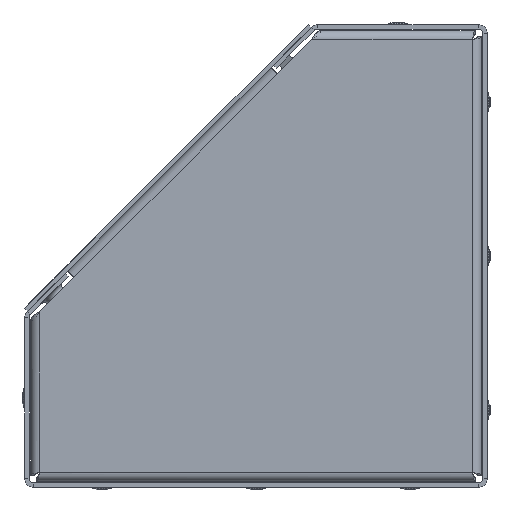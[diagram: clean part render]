
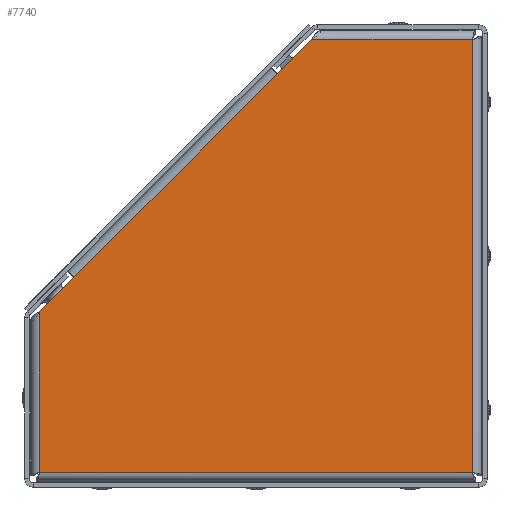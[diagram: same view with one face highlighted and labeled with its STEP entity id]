
A CAD part, left-side view. The second image highlights one B-rep face of the part: STEP entity #7740.
In plain terms, the highlighted planar face has unit normal (-1, 0, 0) as drawn and (1, 0, 0) by its records, which use the part's own axes.
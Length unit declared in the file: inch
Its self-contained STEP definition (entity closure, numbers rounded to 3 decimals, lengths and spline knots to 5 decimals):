
#385 = CARTESIAN_POINT ( 'NONE',  ( 0., 2.08801, 0. ) ) ;
#624 = ORIENTED_EDGE ( 'NONE', *, *, #4556, .T. ) ;
#672 = FACE_OUTER_BOUND ( 'NONE', #2873, .T. ) ;
#896 = DIRECTION ( 'NONE',  ( 0., 0., -1. ) ) ;
#1275 = VECTOR ( 'NONE', #9316, 39.37008 ) ;
#1448 = CARTESIAN_POINT ( 'NONE',  ( 0., 2.53526, -0.44725 ) ) ;
#1819 = VECTOR ( 'NONE', #3026, 39.37008 ) ;
#1889 = ORIENTED_EDGE ( 'NONE', *, *, #10412, .T. ) ;
#1932 = VERTEX_POINT ( 'NONE', #3725 ) ;
#2598 = DIRECTION ( 'NONE',  ( 0., 0., 1. ) ) ;
#2873 = EDGE_LOOP ( 'NONE', ( #1889, #3262, #624, #5979, #3405, #3211, #7404 ) ) ;
#3026 = DIRECTION ( 'NONE',  ( 0., 0., -1. ) ) ;
#3129 = CARTESIAN_POINT ( 'NONE',  ( 0., 2.08801, 0. ) ) ;
#3211 = ORIENTED_EDGE ( 'NONE', *, *, #5976, .T. ) ;
#3242 = LINE ( 'NONE', #3614, #9680 ) ;
#3262 = ORIENTED_EDGE ( 'NONE', *, *, #6919, .T. ) ;
#3405 = ORIENTED_EDGE ( 'NONE', *, *, #4641, .T. ) ;
#3541 = CARTESIAN_POINT ( 'NONE',  ( 0., 5.62, -3.53199 ) ) ;
#3612 = CARTESIAN_POINT ( 'NONE',  ( 0., 0., 0. ) ) ;
#3614 = CARTESIAN_POINT ( 'NONE',  ( 0., 5.62, -3.53199 ) ) ;
#3725 = CARTESIAN_POINT ( 'NONE',  ( 0., 5.17275, -3.08474 ) ) ;
#3919 = AXIS2_PLACEMENT_3D ( 'NONE', #9710, #6258, #896 ) ;
#4167 = LINE ( 'NONE', #9799, #10870 ) ;
#4320 = VECTOR ( 'NONE', #2598, 39.37008 ) ;
#4467 = PLANE ( 'NONE',  #3919 ) ;
#4556 = EDGE_CURVE ( 'NONE', #4722, #10387, #4167, .T. ) ;
#4597 = DIRECTION ( 'NONE',  ( 0., 1., 0. ) ) ;
#4641 = EDGE_CURVE ( 'NONE', #6629, #1932, #8299, .T. ) ;
#4722 = VERTEX_POINT ( 'NONE', #9199 ) ;
#5576 = CARTESIAN_POINT ( 'NONE',  ( 0., 5.62, -3.53199 ) ) ;
#5976 = EDGE_CURVE ( 'NONE', #1932, #6006, #10375, .T. ) ;
#5979 = ORIENTED_EDGE ( 'NONE', *, *, #7146, .T. ) ;
#6006 = VERTEX_POINT ( 'NONE', #1448 ) ;
#6258 = DIRECTION ( 'NONE',  ( 1., 0., 0. ) ) ;
#6277 = EDGE_CURVE ( 'NONE', #6006, #10363, #3242, .T. ) ;
#6583 = CARTESIAN_POINT ( 'NONE',  ( 0., 0., 0. ) ) ;
#6629 = VERTEX_POINT ( 'NONE', #3541 ) ;
#6919 = EDGE_CURVE ( 'NONE', #10067, #4722, #8601, .T. ) ;
#7146 = EDGE_CURVE ( 'NONE', #10387, #6629, #11287, .T. ) ;
#7404 = ORIENTED_EDGE ( 'NONE', *, *, #6277, .T. ) ;
#7740 = ADVANCED_FACE ( 'NONE', ( #672 ), #4467, .T. ) ;
#7914 = CARTESIAN_POINT ( 'NONE',  ( 0., 5.62, -5.62 ) ) ;
#8014 = VECTOR ( 'NONE', #8219, 39.37008 ) ;
#8219 = DIRECTION ( 'NONE',  ( 0., -0.707, 0.707 ) ) ;
#8299 = LINE ( 'NONE', #5576, #8014 ) ;
#8601 = LINE ( 'NONE', #6583, #1819 ) ;
#8877 = DIRECTION ( 'NONE',  ( 0., -0.707, 0.707 ) ) ;
#9069 = VECTOR ( 'NONE', #9266, 39.37008 ) ;
#9199 = CARTESIAN_POINT ( 'NONE',  ( 0., 0., -5.62 ) ) ;
#9266 = DIRECTION ( 'NONE',  ( 0., -1., 0. ) ) ;
#9316 = DIRECTION ( 'NONE',  ( 0., -0.707, 0.707 ) ) ;
#9680 = VECTOR ( 'NONE', #8877, 39.37008 ) ;
#9710 = CARTESIAN_POINT ( 'NONE',  ( 0., 0., 0. ) ) ;
#9799 = CARTESIAN_POINT ( 'NONE',  ( 0., 0., -5.62 ) ) ;
#10067 = VERTEX_POINT ( 'NONE', #3612 ) ;
#10202 = CARTESIAN_POINT ( 'NONE',  ( 0., 5.17275, -3.08474 ) ) ;
#10363 = VERTEX_POINT ( 'NONE', #385 ) ;
#10375 = LINE ( 'NONE', #10202, #1275 ) ;
#10387 = VERTEX_POINT ( 'NONE', #10944 ) ;
#10412 = EDGE_CURVE ( 'NONE', #10363, #10067, #11359, .T. ) ;
#10870 = VECTOR ( 'NONE', #4597, 39.37008 ) ;
#10944 = CARTESIAN_POINT ( 'NONE',  ( 0., 5.62, -5.62 ) ) ;
#11287 = LINE ( 'NONE', #7914, #4320 ) ;
#11359 = LINE ( 'NONE', #3129, #9069 ) ;
